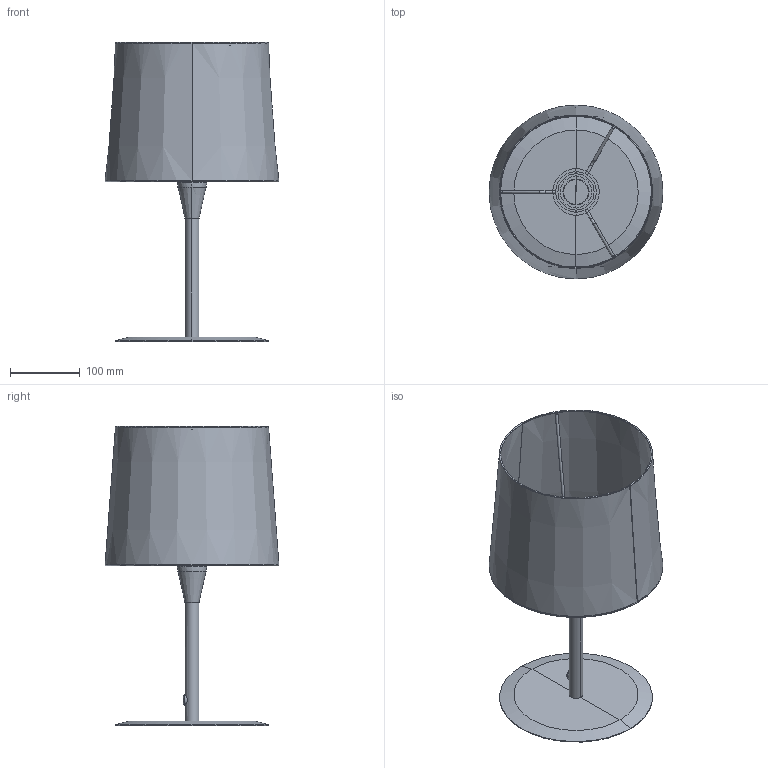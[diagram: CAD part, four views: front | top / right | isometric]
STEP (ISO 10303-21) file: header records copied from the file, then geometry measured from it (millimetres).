
FILE_DESCRIPTION(/* description */ (''),/* implementation_level */ '2;1');
FILE_NAME(/* name */ 'C:\Users\Franco Sartori E\Documents\FARO\DUPLICADO\Modelos\01_Digitalizados\2021\0_MAMBO_SAMBA_CONGA\03_Publicación\64310-04.stp',/* time_stamp */ '2021-02-08T13:06:42+01:00',/* author */ ('Franco Sartori E'),/* organization */ (''),/* preprocessor_version */ 'ST-DEVELOPER v18.1',/* originating_system */ 'AutoCAD Mechanical',/* authorisation */ '');
FILE_SCHEMA (('AUTOMOTIVE_DESIGN { 1 0 10303 214 3 1 1 }'));
Length unit declared in the file: millimetre
Products named in the file (5): Product; 64310_64311_STR - STR-582035-Export; MAMBO - SH-582039-Export; SAMBA - SH-582040-Export; CONGA - SH-583732-Export
Assembly tree (4 placements, depth 2):
  Product
    64310_64311_STR - STR-582035-Export
    MAMBO - SH-582039-Export
    SAMBA - SH-582040-Export
    CONGA - SH-583732-Export
Bounding box: 249.85 x 249.85 x 429.75 mm (x, y, z)
Volume: 532101.4 mm3; surface area: 723332.4 mm2
Topology: 10 solids, 10 shells, 126 faces, 234 edges, 120 vertices
Faces by surface type: plane 46, cylinder 44, torus 16, cone 16, bspline 4
Entity records: 4460 total; most frequent: CARTESIAN_POINT 1917, DIRECTION 548, ORIENTED_EDGE 468, EDGE_CURVE 234, AXIS2_PLACEMENT_3D 227, FACE_OUTER_BOUND 126, EDGE_LOOP 126, ADVANCED_FACE 126
